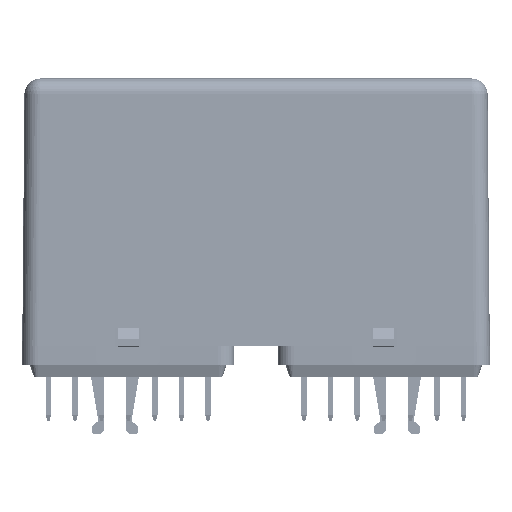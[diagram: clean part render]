
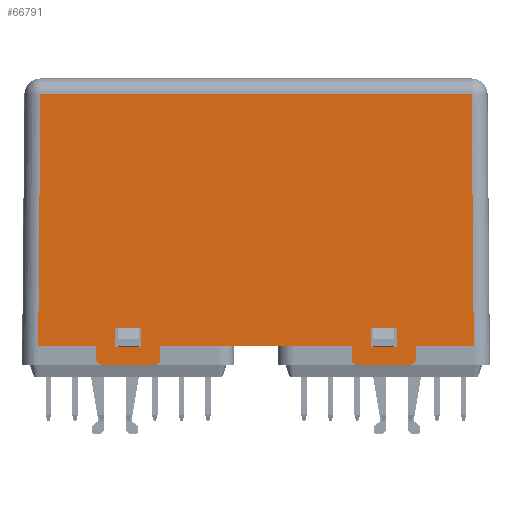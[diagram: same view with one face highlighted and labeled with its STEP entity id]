
A CAD part, front view. The second image highlights one B-rep face of the part: STEP entity #66791.
In plain terms, the highlighted planar face has unit normal (0, -1, 0.011) as drawn and (0, 1, -0.011) by its records, which use the part's own axes.
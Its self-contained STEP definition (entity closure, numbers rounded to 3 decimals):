
#65016=CARTESIAN_POINT('',(30.0,20.024,52.8));
#65017=VERTEX_POINT('',#65016);
#65024=CARTESIAN_POINT('',(29.0,20.035,53.8));
#65025=VERTEX_POINT('',#65024);
#65026=CARTESIAN_POINT('',(29.0,20.024,52.8));
#65027=DIRECTION('',(0.0,-1.,0.011));
#65028=DIRECTION('',(0.0,-0.011,-1.));
#65029=AXIS2_PLACEMENT_3D('',#65026,#65027,#65028);
#65030=ELLIPSE('',#65029,1.,1.);
#65031=EDGE_CURVE('',#65017,#65025,#65030,.T.);
#65048=CARTESIAN_POINT('',(30.0,19.998,50.3));
#65049=VERTEX_POINT('',#65048);
#65056=CARTESIAN_POINT('',(30.0,19.998,50.3));
#65057=DIRECTION('',(0.0,0.011,1.));
#65058=VECTOR('',#65057,2.5);
#65059=LINE('',#65056,#65058);
#65060=EDGE_CURVE('',#65049,#65017,#65059,.T.);
#65110=CARTESIAN_POINT('',(40.909,19.998,50.3));
#65111=VERTEX_POINT('',#65110);
#65119=CARTESIAN_POINT('',(40.909,19.998,50.3));
#65120=DIRECTION('',(-1.0,0.0,0.0));
#65121=VECTOR('',#65120,10.909);
#65122=LINE('',#65119,#65121);
#65123=EDGE_CURVE('',#65111,#65049,#65122,.T.);
#65393=CARTESIAN_POINT('',(40.5,19.5,2.968));
#65394=VERTEX_POINT('',#65393);
#65494=CARTESIAN_POINT('',(-40.5,19.5,2.968));
#65495=VERTEX_POINT('',#65494);
#65520=CARTESIAN_POINT('',(-40.909,19.998,50.3));
#65521=VERTEX_POINT('',#65520);
#65529=CARTESIAN_POINT('',(-40.909,19.998,50.3));
#65530=DIRECTION('',(0.009,-0.011,-1.));
#65531=VECTOR('',#65530,47.336);
#65532=LINE('',#65529,#65531);
#65533=EDGE_CURVE('',#65521,#65495,#65532,.T.);
#65558=CARTESIAN_POINT('',(-40.5,19.5,2.968));
#65559=DIRECTION('',(1.0,0.0,0.0));
#65560=VECTOR('',#65559,81.);
#65561=LINE('',#65558,#65560);
#65562=EDGE_CURVE('',#65495,#65394,#65561,.T.);
#65656=CARTESIAN_POINT('',(40.5,19.5,2.968));
#65657=DIRECTION('',(0.009,0.011,1.));
#65658=VECTOR('',#65657,47.336);
#65659=LINE('',#65656,#65658);
#65660=EDGE_CURVE('',#65394,#65111,#65659,.T.);
#66181=CARTESIAN_POINT('',(26.4,19.999,50.4));
#66182=VERTEX_POINT('',#66181);
#66189=CARTESIAN_POINT('',(26.4,19.961,46.8));
#66190=VERTEX_POINT('',#66189);
#66191=CARTESIAN_POINT('',(26.4,19.961,46.8));
#66192=DIRECTION('',(0.0,0.011,1.));
#66193=VECTOR('',#66192,3.6);
#66194=LINE('',#66191,#66193);
#66195=EDGE_CURVE('',#66190,#66182,#66194,.T.);
#66235=CARTESIAN_POINT('',(21.6,19.961,46.8));
#66236=VERTEX_POINT('',#66235);
#66237=CARTESIAN_POINT('',(21.6,19.961,46.8));
#66238=DIRECTION('',(1.0,0.0,0.0));
#66239=VECTOR('',#66238,4.8);
#66240=LINE('',#66237,#66239);
#66241=EDGE_CURVE('',#66236,#66190,#66240,.T.);
#66258=CARTESIAN_POINT('',(21.6,19.999,50.4));
#66259=VERTEX_POINT('',#66258);
#66266=CARTESIAN_POINT('',(26.4,19.999,50.4));
#66267=DIRECTION('',(-1.0,0.0,0.0));
#66268=VECTOR('',#66267,4.8);
#66269=LINE('',#66266,#66268);
#66270=EDGE_CURVE('',#66182,#66259,#66269,.T.);
#66300=CARTESIAN_POINT('',(21.6,19.999,50.4));
#66301=DIRECTION('',(0.,-0.011,-1.));
#66302=VECTOR('',#66301,3.6);
#66303=LINE('',#66300,#66302);
#66304=EDGE_CURVE('',#66259,#66236,#66303,.T.);
#66345=CARTESIAN_POINT('',(-21.6,19.999,50.4));
#66346=VERTEX_POINT('',#66345);
#66353=CARTESIAN_POINT('',(-21.6,19.961,46.8));
#66354=VERTEX_POINT('',#66353);
#66355=CARTESIAN_POINT('',(-21.6,19.961,46.8));
#66356=DIRECTION('',(0.,0.011,1.));
#66357=VECTOR('',#66356,3.6);
#66358=LINE('',#66355,#66357);
#66359=EDGE_CURVE('',#66354,#66346,#66358,.T.);
#66399=CARTESIAN_POINT('',(-26.4,19.961,46.8));
#66400=VERTEX_POINT('',#66399);
#66401=CARTESIAN_POINT('',(-26.4,19.961,46.8));
#66402=DIRECTION('',(1.0,0.0,0.0));
#66403=VECTOR('',#66402,4.8);
#66404=LINE('',#66401,#66403);
#66405=EDGE_CURVE('',#66400,#66354,#66404,.T.);
#66422=CARTESIAN_POINT('',(-26.4,19.999,50.4));
#66423=VERTEX_POINT('',#66422);
#66430=CARTESIAN_POINT('',(-21.6,19.999,50.4));
#66431=DIRECTION('',(-1.0,0.0,0.0));
#66432=VECTOR('',#66431,4.8);
#66433=LINE('',#66430,#66432);
#66434=EDGE_CURVE('',#66346,#66423,#66433,.T.);
#66464=CARTESIAN_POINT('',(-26.4,19.999,50.4));
#66465=DIRECTION('',(0.0,-0.011,-1.));
#66466=VECTOR('',#66465,3.6);
#66467=LINE('',#66464,#66466);
#66468=EDGE_CURVE('',#66423,#66400,#66467,.T.);
#66510=CARTESIAN_POINT('',(-30.,19.998,50.3));
#66511=VERTEX_POINT('',#66510);
#66518=CARTESIAN_POINT('',(-30.,19.998,50.3));
#66519=DIRECTION('',(-1.0,0.0,0.0));
#66520=VECTOR('',#66519,10.909);
#66521=LINE('',#66518,#66520);
#66522=EDGE_CURVE('',#66511,#65521,#66521,.T.);
#66548=CARTESIAN_POINT('',(-30.,20.024,52.8));
#66549=VERTEX_POINT('',#66548);
#66556=CARTESIAN_POINT('',(-30.0,20.024,52.8));
#66557=DIRECTION('',(0.0,-0.011,-1.));
#66558=VECTOR('',#66557,2.5);
#66559=LINE('',#66556,#66558);
#66560=EDGE_CURVE('',#66549,#66511,#66559,.T.);
#66572=CARTESIAN_POINT('',(-29.,20.035,53.8));
#66573=VERTEX_POINT('',#66572);
#66580=CARTESIAN_POINT('',(-29.,20.024,52.8));
#66581=DIRECTION('',(0.0,-1.,0.011));
#66582=DIRECTION('',(0.0,-0.011,-1.));
#66583=AXIS2_PLACEMENT_3D('',#66580,#66581,#66582);
#66584=ELLIPSE('',#66583,1.,1.0);
#66585=EDGE_CURVE('',#66573,#66549,#66584,.T.);
#66597=CARTESIAN_POINT('',(-19.,20.035,53.8));
#66598=VERTEX_POINT('',#66597);
#66605=CARTESIAN_POINT('',(-29.0,20.035,53.8));
#66606=DIRECTION('',(1.0,0.0,0.0));
#66607=VECTOR('',#66606,10.0);
#66608=LINE('',#66605,#66607);
#66609=EDGE_CURVE('',#66573,#66598,#66608,.T.);
#66621=CARTESIAN_POINT('',(-18.,20.024,52.8));
#66622=VERTEX_POINT('',#66621);
#66629=CARTESIAN_POINT('',(-19.,20.024,52.8));
#66630=DIRECTION('',(0.0,-1.,0.011));
#66631=DIRECTION('',(0.0,-0.011,-1.));
#66632=AXIS2_PLACEMENT_3D('',#66629,#66630,#66631);
#66633=ELLIPSE('',#66632,1.,1.);
#66634=EDGE_CURVE('',#66622,#66598,#66633,.T.);
#66646=CARTESIAN_POINT('',(-18.,19.998,50.3));
#66647=VERTEX_POINT('',#66646);
#66654=CARTESIAN_POINT('',(-18.,19.998,50.3));
#66655=DIRECTION('',(0.,0.011,1.));
#66656=VECTOR('',#66655,2.5);
#66657=LINE('',#66654,#66656);
#66658=EDGE_CURVE('',#66647,#66622,#66657,.T.);
#66671=CARTESIAN_POINT('',(18.0,19.998,50.3));
#66672=VERTEX_POINT('',#66671);
#66679=CARTESIAN_POINT('',(18.,19.998,50.3));
#66680=DIRECTION('',(-1.0,0.0,0.0));
#66681=VECTOR('',#66680,36.0);
#66682=LINE('',#66679,#66681);
#66683=EDGE_CURVE('',#66672,#66647,#66682,.T.);
#66696=CARTESIAN_POINT('',(18.,20.024,52.8));
#66697=VERTEX_POINT('',#66696);
#66704=CARTESIAN_POINT('',(18.,20.024,52.8));
#66705=DIRECTION('',(0.,-0.011,-1.));
#66706=VECTOR('',#66705,2.5);
#66707=LINE('',#66704,#66706);
#66708=EDGE_CURVE('',#66697,#66672,#66707,.T.);
#66720=CARTESIAN_POINT('',(19.0,20.035,53.8));
#66721=VERTEX_POINT('',#66720);
#66728=CARTESIAN_POINT('',(19.0,20.024,52.8));
#66729=DIRECTION('',(0.0,-1.,0.011));
#66730=DIRECTION('',(0.0,-0.011,-1.));
#66731=AXIS2_PLACEMENT_3D('',#66728,#66729,#66730);
#66732=ELLIPSE('',#66731,1.,1.);
#66733=EDGE_CURVE('',#66721,#66697,#66732,.T.);
#66746=CARTESIAN_POINT('',(19.,20.035,53.8));
#66747=DIRECTION('',(1.0,0.0,0.0));
#66748=VECTOR('',#66747,10.);
#66749=LINE('',#66746,#66748);
#66750=EDGE_CURVE('',#66721,#65025,#66749,.T.);
#66756=CARTESIAN_POINT('',(0.0,19.5,2.968));
#66757=DIRECTION('',(0.0,-1.,0.011));
#66758=DIRECTION('',(0.0,-0.011,-1.));
#66759=AXIS2_PLACEMENT_3D('',#66756,#66757,#66758);
#66760=PLANE('',#66759);
#66761=ORIENTED_EDGE('',*,*,#65533,.F.);
#66762=ORIENTED_EDGE('',*,*,#66522,.F.);
#66763=ORIENTED_EDGE('',*,*,#66560,.F.);
#66764=ORIENTED_EDGE('',*,*,#66585,.F.);
#66765=ORIENTED_EDGE('',*,*,#66609,.T.);
#66766=ORIENTED_EDGE('',*,*,#66634,.F.);
#66767=ORIENTED_EDGE('',*,*,#66658,.F.);
#66768=ORIENTED_EDGE('',*,*,#66683,.F.);
#66769=ORIENTED_EDGE('',*,*,#66708,.F.);
#66770=ORIENTED_EDGE('',*,*,#66733,.F.);
#66771=ORIENTED_EDGE('',*,*,#66750,.T.);
#66772=ORIENTED_EDGE('',*,*,#65031,.F.);
#66773=ORIENTED_EDGE('',*,*,#65060,.F.);
#66774=ORIENTED_EDGE('',*,*,#65123,.F.);
#66775=ORIENTED_EDGE('',*,*,#65660,.F.);
#66776=ORIENTED_EDGE('',*,*,#65562,.F.);
#66777=EDGE_LOOP('',(#66761,#66762,#66763,#66764,#66765,#66766,#66767,#66768,#66769,#66770,#66771,#66772,#66773,#66774,#66775,#66776));
#66778=FACE_OUTER_BOUND('',#66777,.T.);
#66779=ORIENTED_EDGE('',*,*,#66304,.T.);
#66780=ORIENTED_EDGE('',*,*,#66241,.T.);
#66781=ORIENTED_EDGE('',*,*,#66195,.T.);
#66782=ORIENTED_EDGE('',*,*,#66270,.T.);
#66783=EDGE_LOOP('',(#66779,#66780,#66781,#66782));
#66784=FACE_BOUND('',#66783,.T.);
#66785=ORIENTED_EDGE('',*,*,#66468,.T.);
#66786=ORIENTED_EDGE('',*,*,#66405,.T.);
#66787=ORIENTED_EDGE('',*,*,#66359,.T.);
#66788=ORIENTED_EDGE('',*,*,#66434,.T.);
#66789=EDGE_LOOP('',(#66785,#66786,#66787,#66788));
#66790=FACE_BOUND('',#66789,.T.);
#66791=ADVANCED_FACE('',(#66778,#66784,#66790),#66760,.F.);
